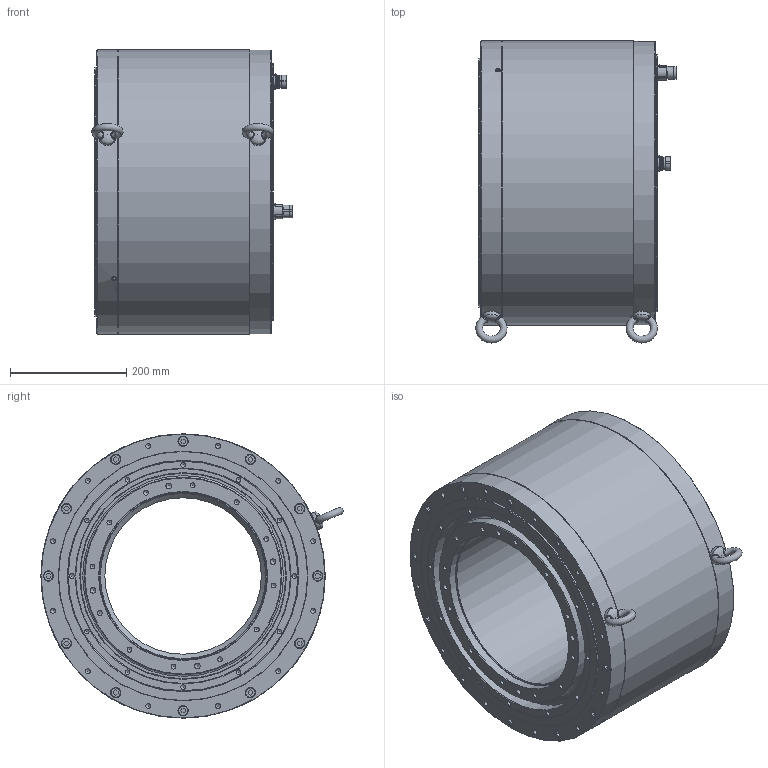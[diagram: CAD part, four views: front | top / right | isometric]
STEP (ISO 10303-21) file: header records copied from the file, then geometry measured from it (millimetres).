
FILE_DESCRIPTION( ( 'Unknown' ), '1' );
FILE_NAME( 'Q:/SKA DDR in acciaio/WEB File/SKA RT 430/3D/430CC040.stp', 'Unknown', ( 'Unknown' ), ( 'Unknown' ), 'PSStep 14.0', 'Unknown', ' ' );
FILE_SCHEMA( ( 'AUTOMOTIVE_DESIGN { 1 0 10303 214 1 1 1 1 }' ) );
Length unit declared in the file: millimetre
Products named in the file (17): Assem1; CN M23 PAN-POT BEGA 120 4 + 4 pin SpTcR; CN M23 PAN-SEG AEGA 139 17 pin SpTcR; 430VV006; Vite a brugola testa cil 8,8 -  M 2,5 x 8; Vite a brugola testa cil 12,9 -  M 10 x 50; Anello OR 3,53 D430,66-41700-oa0; Anello OR 3,53 D430,66-41700-oa1; Anello OR 3,53 D380,6-41500-oa2; Vite a brugola testa svasata 10,9 -  M  4 x 16; 430FF010; 430FC001; 430FP003; Golfare Maschio M12; Grano senza punta M  6 x 10; 430FS028; 430GG014
Assembly tree (53 placements, depth 2):
  Assem1
    CN M23 PAN-POT BEGA 120 4 + 4 pin SpTcR
    CN M23 PAN-SEG AEGA 139 17 pin SpTcR
    430VV006
    Vite a brugola testa cil 8,8 -  M 2,5 x 8  x8
    Vite a brugola testa cil 12,9 -  M 10 x 50  x24
    Anello OR 3,53 D430,66-41700-oa0
    Anello OR 3,53 D430,66-41700-oa1
    Anello OR 3,53 D380,6-41500-oa2
    Vite a brugola testa svasata 10,9 -  M  4 x 16  x6
    430FF010
    430FC001
    430FP003
    Golfare Maschio M12  x2
    Grano senza punta M  6 x 10  x2
    430FS028
    430GG014
Bounding box: 345.43 x 520.77 x 490 mm (x, y, z)
Volume: 23324597.4 mm3; surface area: 2609064.8 mm2
Topology: 53 solids, 53 shells, 1283 faces, 2927 edges, 1907 vertices
Faces by surface type: plane 555, cylinder 451, cone 221, torus 38, sphere 8, bspline 8, revolution 2
Full cylindrical faces by diameter (mm): 1.5 x4, 2 x17, 2.013 x8, 2.5 x12, 2.7 x4, 2.8 x4, 3.242 x16, 3.4 x6, 4 x8, 4.134 x12, 4.5 x6, 4.7 x8, 4.917 x2, 6 x2, 8 x12, 8.376 x96, 8.5 x12, 9 x2, 10 x32, 10.106 x4, 10.5 x36, 11 x2, 12 x2, 16 x24, 17 x2, 17.5 x24, 19.8 x2, 20 x3, 21 x2, 21.5 x2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
Entity records: 26073 total; most frequent: CARTESIAN_POINT 5151, DIRECTION 3467, ORIENTED_EDGE 2122, AXIS2_PLACEMENT_3D 1618, EDGE_LOOP 1568, FACE_OUTER_BOUND 1152, EDGE_CURVE 1061, VERTEX_POINT 1046
